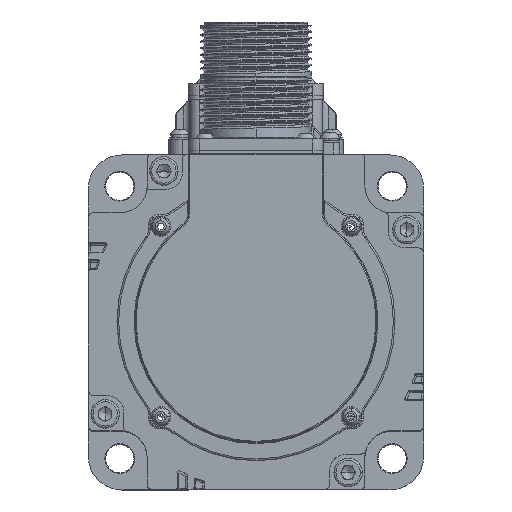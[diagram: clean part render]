
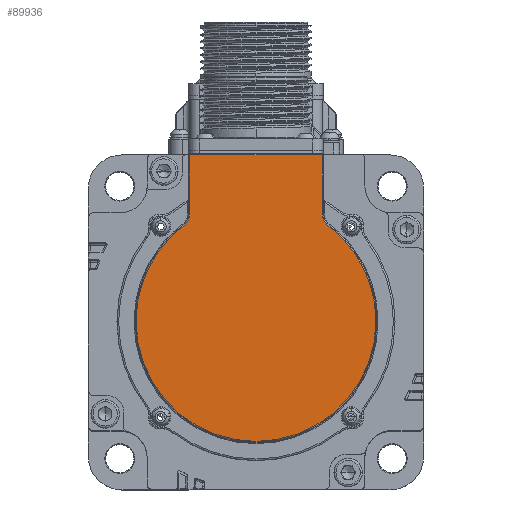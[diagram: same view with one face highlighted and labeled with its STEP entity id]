
A CAD part, top view. The second image highlights one B-rep face of the part: STEP entity #89936.
In plain terms, the highlighted planar face has unit normal (0, 0, 1).
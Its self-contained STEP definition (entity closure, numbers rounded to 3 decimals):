
#455 = DIRECTION ( 'NONE',  ( 1., 0., 0. ) ) ;
#694 = CARTESIAN_POINT ( 'NONE',  ( -87.572, -9.741, 300.4 ) ) ;
#1161 = CARTESIAN_POINT ( 'NONE',  ( -32.072, 22.881, 300.4 ) ) ;
#1403 = ORIENTED_EDGE ( 'NONE', *, *, #22392, .T. ) ;
#3036 = VERTEX_POINT ( 'NONE', #3202 ) ;
#3202 = CARTESIAN_POINT ( 'NONE',  ( -71.472, 22.881, 300.4 ) ) ;
#5466 = CIRCLE ( 'NONE', #27415, 35.8 ) ;
#8288 = CARTESIAN_POINT ( 'NONE',  ( -51.772, -9.741, 300.4 ) ) ;
#9725 = ORIENTED_EDGE ( 'NONE', *, *, #68913, .T. ) ;
#12821 = CARTESIAN_POINT ( 'NONE',  ( -73.549, 18.674, 300.4 ) ) ;
#14746 = CARTESIAN_POINT ( 'NONE',  ( -76.772, 22.881, 300.4 ) ) ;
#14839 = CARTESIAN_POINT ( 'NONE',  ( -15.972, -9.741, 300.4 ) ) ;
#17269 = EDGE_CURVE ( 'NONE', #3036, #37395, #63004, .T. ) ;
#18017 = CARTESIAN_POINT ( 'NONE',  ( -51.772, -9.741, 300.4 ) ) ;
#19112 = EDGE_LOOP ( 'NONE', ( #67910, #30690, #31548, #42212, #9725, #90358, #74415, #1403 ) ) ;
#21793 = DIRECTION ( 'NONE',  ( 0., 0., -1. ) ) ;
#22392 = EDGE_CURVE ( 'NONE', #23019, #66713, #60461, .T. ) ;
#23019 = VERTEX_POINT ( 'NONE', #1161 ) ;
#25731 = AXIS2_PLACEMENT_3D ( 'NONE', #29190, #21793, #67531 ) ;
#25829 = VECTOR ( 'NONE', #73710, 1000. ) ;
#26161 = FACE_OUTER_BOUND ( 'NONE', #19112, .T. ) ;
#27415 = AXIS2_PLACEMENT_3D ( 'NONE', #8288, #59451, #455 ) ;
#28357 = VECTOR ( 'NONE', #52256, 1000. ) ;
#29190 = CARTESIAN_POINT ( 'NONE',  ( -26.772, 22.881, 300.4 ) ) ;
#30042 = AXIS2_PLACEMENT_3D ( 'NONE', #14746, #36340, #66370 ) ;
#30098 = LINE ( 'NONE', #60094, #28357 ) ;
#30329 = VERTEX_POINT ( 'NONE', #14839 ) ;
#30690 = ORIENTED_EDGE ( 'NONE', *, *, #38930, .T. ) ;
#30947 = VERTEX_POINT ( 'NONE', #694 ) ;
#31548 = ORIENTED_EDGE ( 'NONE', *, *, #17269, .T. ) ;
#33275 = EDGE_CURVE ( 'NONE', #30329, #37387, #48830, .T. ) ;
#34734 = AXIS2_PLACEMENT_3D ( 'NONE', #92548, #71870, #70914 ) ;
#36340 = DIRECTION ( 'NONE',  ( 0., 0., -1. ) ) ;
#37387 = VERTEX_POINT ( 'NONE', #57997 ) ;
#37395 = VERTEX_POINT ( 'NONE', #12821 ) ;
#38930 = EDGE_CURVE ( 'NONE', #73005, #3036, #30098, .T. ) ;
#39423 = CARTESIAN_POINT ( 'NONE',  ( -32.072, 39.959, 300.4 ) ) ;
#40181 = DIRECTION ( 'NONE',  ( 1., 0., 0. ) ) ;
#42212 = ORIENTED_EDGE ( 'NONE', *, *, #48559, .T. ) ;
#44201 = LINE ( 'NONE', #74186, #25829 ) ;
#48559 = EDGE_CURVE ( 'NONE', #37395, #30947, #52586, .T. ) ;
#48582 = CARTESIAN_POINT ( 'NONE',  ( -51.772, -9.741, 300.4 ) ) ;
#48830 = CIRCLE ( 'NONE', #77066, 35.8 ) ;
#52256 = DIRECTION ( 'NONE',  ( 0., -1., 0. ) ) ;
#52586 = CIRCLE ( 'NONE', #71431, 35.8 ) ;
#53454 = EDGE_CURVE ( 'NONE', #37387, #23019, #64973, .T. ) ;
#57997 = CARTESIAN_POINT ( 'NONE',  ( -29.996, 18.674, 300.4 ) ) ;
#59222 = VECTOR ( 'NONE', #90415, 1000. ) ;
#59451 = DIRECTION ( 'NONE',  ( 0., 0., 1. ) ) ;
#60094 = CARTESIAN_POINT ( 'NONE',  ( -71.472, 22.881, 300.4 ) ) ;
#60461 = LINE ( 'NONE', #74241, #59222 ) ;
#62275 = DIRECTION ( 'NONE',  ( 0., 0., 1. ) ) ;
#63004 = CIRCLE ( 'NONE', #30042, 5.3 ) ;
#63045 = PLANE ( 'NONE',  #34734 ) ;
#64973 = CIRCLE ( 'NONE', #25731, 5.3 ) ;
#66370 = DIRECTION ( 'NONE',  ( 1., 0., 0. ) ) ;
#66713 = VERTEX_POINT ( 'NONE', #39423 ) ;
#67531 = DIRECTION ( 'NONE',  ( 1., 0., 0. ) ) ;
#67910 = ORIENTED_EDGE ( 'NONE', *, *, #90244, .T. ) ;
#68913 = EDGE_CURVE ( 'NONE', #30947, #30329, #5466, .T. ) ;
#70914 = DIRECTION ( 'NONE',  ( 1., 0., 0. ) ) ;
#71431 = AXIS2_PLACEMENT_3D ( 'NONE', #48582, #79470, #40181 ) ;
#71870 = DIRECTION ( 'NONE',  ( 0., 0., 1. ) ) ;
#73005 = VERTEX_POINT ( 'NONE', #94173 ) ;
#73710 = DIRECTION ( 'NONE',  ( -1., 0., 0. ) ) ;
#74186 = CARTESIAN_POINT ( 'NONE',  ( -71.772, 39.959, 300.4 ) ) ;
#74241 = CARTESIAN_POINT ( 'NONE',  ( -32.072, 40.259, 300.4 ) ) ;
#74415 = ORIENTED_EDGE ( 'NONE', *, *, #53454, .T. ) ;
#77066 = AXIS2_PLACEMENT_3D ( 'NONE', #18017, #62275, #92245 ) ;
#79470 = DIRECTION ( 'NONE',  ( 0., 0., 1. ) ) ;
#89936 = ADVANCED_FACE ( 'NONE', ( #26161 ), #63045, .T. ) ;
#90244 = EDGE_CURVE ( 'NONE', #66713, #73005, #44201, .T. ) ;
#90358 = ORIENTED_EDGE ( 'NONE', *, *, #33275, .T. ) ;
#90415 = DIRECTION ( 'NONE',  ( 0., 1., 0. ) ) ;
#92245 = DIRECTION ( 'NONE',  ( 1., 0., 0. ) ) ;
#92548 = CARTESIAN_POINT ( 'NONE',  ( -51.772, -9.741, 300.4 ) ) ;
#94173 = CARTESIAN_POINT ( 'NONE',  ( -71.472, 39.959, 300.4 ) ) ;
